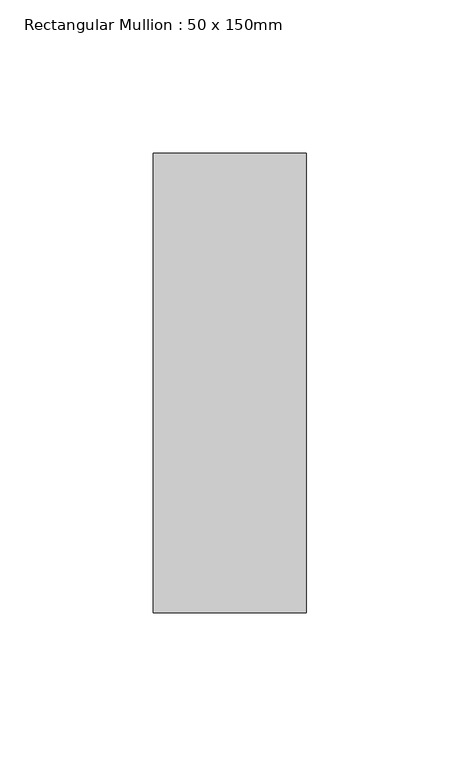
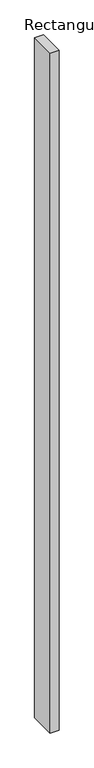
"""IFC4 building model written with IfcOpenShell, lengths in millimetres: member geometry, Rectangular Mullion : 50 x 150mm."""

from ifc_helpers import new_model, si_unit, frame, origin, place, context, project, spatial, polyline, outline, extrude, source, transform, mapped, element, save


def rectangular_mullion_50_x_150mm_7729aa8c(model_context):
    return source(origin(), model_context, "Body", "SweptSolid", [
        extrude(outline(polyline([(25.0, 75.0), (25.0, -75.0), (-25.0, -75.0), (-25.0, 75.0), (25.0, 75.0)])), frame((0.0, 0.0, -4041.0814338), z_axis=(0.0, 0.0, 1.0), x_axis=(1.0, 0.0, 0.0)), (0.0, 0.0, 1.0), 4041.0814338),
    ])


if __name__ == "__main__":
    model = new_model("IFC4")
    model_context = context("Model", 3, world=origin())
    ifc_project = project(units=[si_unit("LENGTHUNIT", "METRE", prefix="MILLI")], contexts=[model_context])
    site = spatial("IfcSite", under=ifc_project)
    building = spatial("IfcBuilding", under=site)
    placement = place(None, origin())
    rectangular_mullion_50_x_150mm_shape = rectangular_mullion_50_x_150mm_7729aa8c(model_context)
    element("IfcMember", 1, ObjectType="Rectangular Mullion : 50 x 150mm", at=placement, inside=building, context=model_context, shape_type="MappedRepresentation", body=[
        mapped(rectangular_mullion_50_x_150mm_shape, transform((0.0, 0.0, 0.0), x_axis=(1.0, 0.0, 0.0), y_axis=(0.0, 1.0, 0.0), z_axis=(0.0, 0.0, 1.0))),
    ])
    save(model, "model.ifc")
